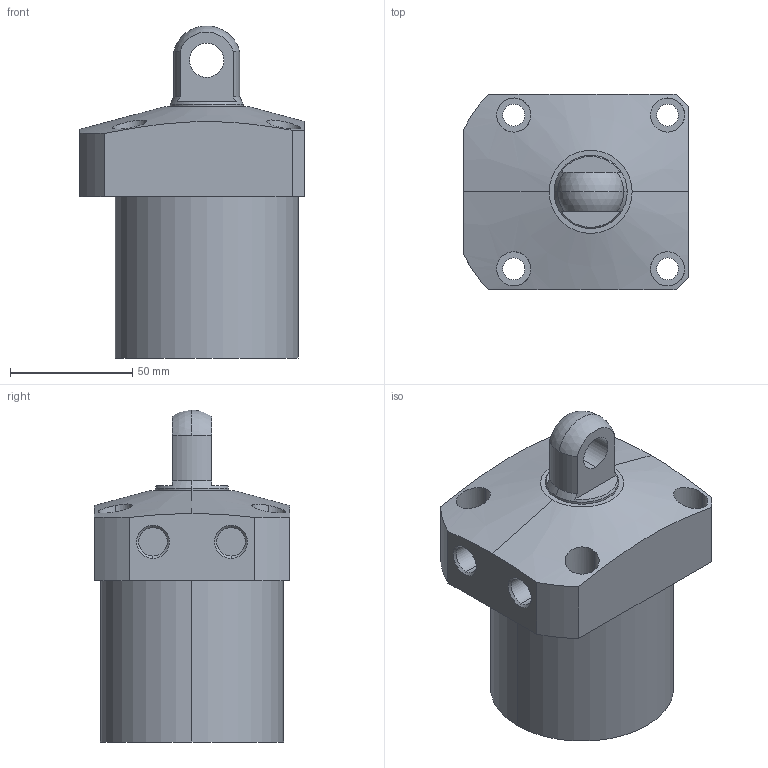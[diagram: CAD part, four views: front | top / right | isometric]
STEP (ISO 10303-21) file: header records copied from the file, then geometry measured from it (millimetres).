
FILE_DESCRIPTION (( 'STEP AP203' ), '1' );
FILE_NAME ('CLL-075CP-50.STEP', '2019-12-20T08:29:52', ( '' ), ( '' ), 'SwSTEP 2.0', 'SolidWorks 2015', '' );
FILE_SCHEMA (( 'CONFIG_CONTROL_DESIGN' ));
Length unit declared in the file: millimetre
Products named in the file (1): CLL-075CP-50
Bounding box: 92 x 80 x 136 mm (x, y, z)
Volume: 521048.8 mm3; surface area: 46820.5 mm2
Topology: 1 solids, 1 shells, 66 faces, 155 edges, 101 vertices
Faces by surface type: cylinder 35, plane 21, cone 8, sphere 2
Entity records: 2408 total; most frequent: CARTESIAN_POINT 755, DIRECTION 345, ORIENTED_EDGE 310, EDGE_CURVE 155, AXIS2_PLACEMENT_3D 143, VERTEX_POINT 101, EDGE_LOOP 86, CIRCLE 76
